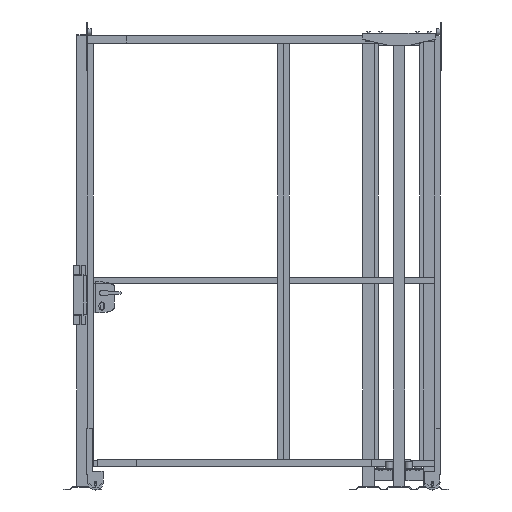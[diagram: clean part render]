
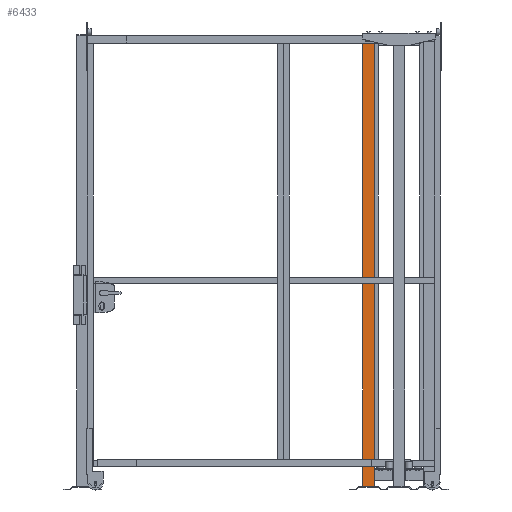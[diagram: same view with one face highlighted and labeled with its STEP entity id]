
A CAD part, front view. The second image highlights one B-rep face of the part: STEP entity #6433.
In plain terms, the highlighted planar face has unit normal (0, -1, 0) as drawn and (-1, 0, 0) by its records, which use the part's own axes.
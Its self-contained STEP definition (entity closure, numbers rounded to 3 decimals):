
#611=FACE_OUTER_BOUND('',#1131,.T.);
#1131=EDGE_LOOP('',(#4002,#4003,#4004,#4005));
#1719=VERTEX_POINT('',#14316);
#1720=VERTEX_POINT('',#14318);
#1723=VERTEX_POINT('',#14325);
#1724=VERTEX_POINT('',#14327);
#2585=EDGE_CURVE('',#1719,#1720,#7763,.T.);
#2589=EDGE_CURVE('',#1723,#1724,#7767,.T.);
#2591=EDGE_CURVE('',#1720,#1723,#7769,.T.);
#2593=EDGE_CURVE('',#1719,#1724,#7771,.T.);
#4002=ORIENTED_EDGE('',*,*,#2593,.T.);
#4003=ORIENTED_EDGE('',*,*,#2589,.F.);
#4004=ORIENTED_EDGE('',*,*,#2591,.F.);
#4005=ORIENTED_EDGE('',*,*,#2585,.F.);
#5983=PLANE('',#9900);
#6433=ADVANCED_FACE('',(#611),#5983,.F.);
#7763=LINE('',#14319,#8959);
#7767=LINE('',#14328,#8963);
#7769=LINE('',#14331,#8965);
#7771=LINE('',#14334,#8967);
#8959=VECTOR('',#11167,1.);
#8963=VECTOR('',#11173,1.);
#8965=VECTOR('',#11177,1.);
#8967=VECTOR('',#11181,1.);
#9900=AXIS2_PLACEMENT_3D('',#14333,#11179,#11180);
#11167=DIRECTION('',(0.,-1.,0.));
#11173=DIRECTION('',(0.,1.,0.));
#11177=DIRECTION('',(0.,0.,-1.));
#11179=DIRECTION('center_axis',(1.,0.,0.));
#11180=DIRECTION('ref_axis',(0.,0.,-1.));
#11181=DIRECTION('',(0.,0.,-1.));
#14316=CARTESIAN_POINT('',(-30.,30.,2320.));
#14318=CARTESIAN_POINT('',(-30.,-30.,2320.));
#14319=CARTESIAN_POINT('',(-30.,0.,2320.));
#14325=CARTESIAN_POINT('',(-30.,-30.,20.));
#14327=CARTESIAN_POINT('',(-30.,30.,20.));
#14328=CARTESIAN_POINT('',(-30.,0.,20.));
#14331=CARTESIAN_POINT('',(-30.,-30.,1170.));
#14333=CARTESIAN_POINT('Origin',(-30.,0.,
1170.));
#14334=CARTESIAN_POINT('',(-30.,30.,1170.));
